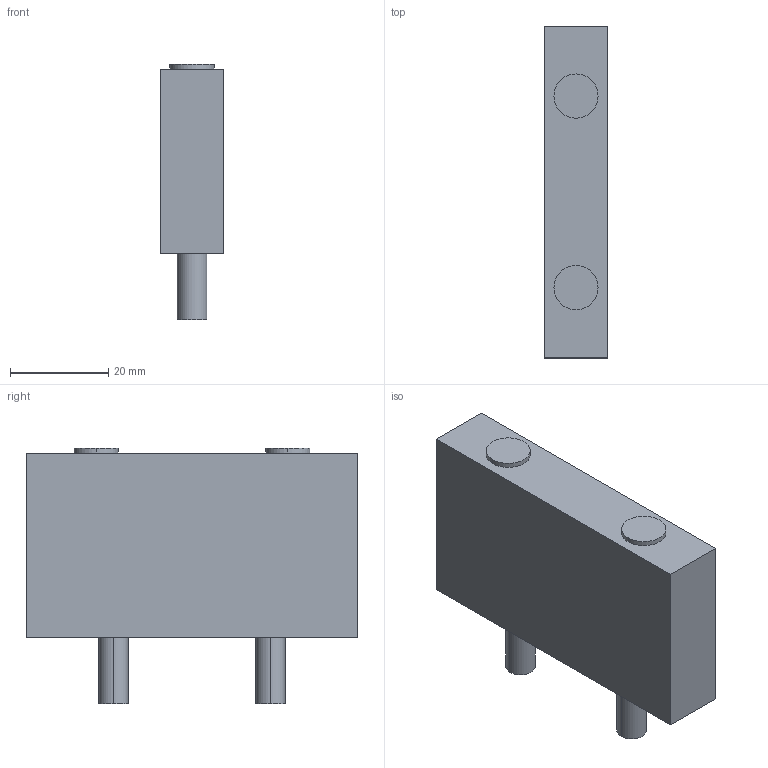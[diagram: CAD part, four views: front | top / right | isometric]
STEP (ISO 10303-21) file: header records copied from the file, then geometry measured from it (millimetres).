
FILE_DESCRIPTION (( 'STEP AP214' ), '1' );
FILE_NAME ('Klemmeinheit.STEP', '2010-09-29T12:31:14', ( 'grass' ), ( '' ), 'SwSTEP 2.0', 'SolidWorks 2010', '' );
FILE_SCHEMA (( 'AUTOMOTIVE_DESIGN' ));
Length unit declared in the file: millimetre
Products named in the file (1): Klemmeinheit
Bounding box: 13 x 67.5 x 52 mm (x, y, z)
Volume: 33796.9 mm3; surface area: 8358 mm2
Topology: 1 solids, 1 shells, 18 faces, 36 edges, 24 vertices
Faces by surface type: plane 10, cylinder 8
Entity records: 510 total; most frequent: DIRECTION 90, CARTESIAN_POINT 79, ORIENTED_EDGE 72, EDGE_CURVE 36, AXIS2_PLACEMENT_3D 35, VERTEX_POINT 24, EDGE_LOOP 22, LINE 20
